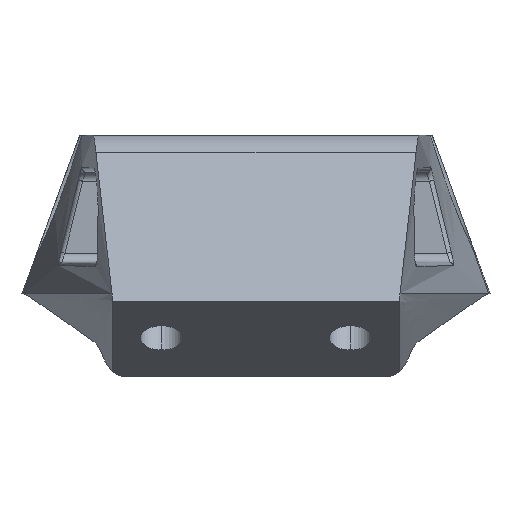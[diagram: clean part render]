
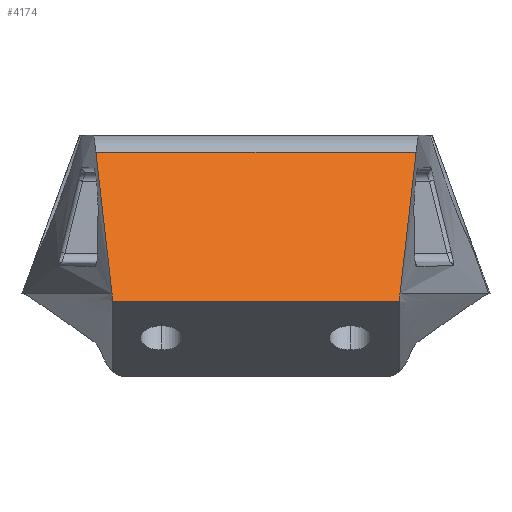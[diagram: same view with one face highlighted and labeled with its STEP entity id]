
A CAD part, front view. The second image highlights one B-rep face of the part: STEP entity #4174.
In plain terms, the highlighted planar face has unit normal (0, -0.845, 0.536).
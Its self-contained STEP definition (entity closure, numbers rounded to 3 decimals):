
#22 = CARTESIAN_POINT ( 'NONE',  ( 16., -94.058, 0. ) ) ;
#117 = ORIENTED_EDGE ( 'NONE', *, *, #4280, .F. ) ;
#268 = ORIENTED_EDGE ( 'NONE', *, *, #5588, .T. ) ;
#412 = LINE ( 'NONE', #7339, #3879 ) ;
#429 = CARTESIAN_POINT ( 'NONE',  ( -16., -94.246, -0.296 ) ) ;
#591 = CARTESIAN_POINT ( 'NONE',  ( -17.789, -84.075, 15.742 ) ) ;
#743 = VERTEX_POINT ( 'NONE', #1839 ) ;
#748 = CARTESIAN_POINT ( 'NONE',  ( 16., -94.434, -0.592 ) ) ;
#789 = CARTESIAN_POINT ( 'NONE',  ( -16., -94.058, 0. ) ) ;
#1155 = LINE ( 'NONE', #8320, #6835 ) ;
#1227 = CARTESIAN_POINT ( 'NONE',  ( -16.596, -90.73, 5.247 ) ) ;
#1330 = CARTESIAN_POINT ( 'NONE',  ( 17.193, -87.403, 10.495 ) ) ;
#1387 = CARTESIAN_POINT ( 'NONE',  ( 16., -94.058, 0. ) ) ;
#1492 = DIRECTION ( 'NONE',  ( 0., -0.844, 0.536 ) ) ;
#1517 = VERTEX_POINT ( 'NONE', #591 ) ;
#1532 = PLANE ( 'NONE',  #2546 ) ;
#1835 = B_SPLINE_CURVE_WITH_KNOTS ( 'NONE', 3,
 ( #6451, #3938, #1330, #4063 ),
 .UNSPECIFIED., .F., .F.,
 ( 4, 4 ),
 ( 0., 0.894 ),
 .UNSPECIFIED. ) ;
#1839 = CARTESIAN_POINT ( 'NONE',  ( 16., -94.621, -0.888 ) ) ;
#1889 = CARTESIAN_POINT ( 'NONE',  ( 16., -94.621, -0.888 ) ) ;
#2097 = EDGE_LOOP ( 'NONE', ( #2863, #2395, #3702, #268, #7749, #117 ) ) ;
#2188 = EDGE_CURVE ( 'NONE', #4210, #743, #1155, .T. ) ;
#2395 = ORIENTED_EDGE ( 'NONE', *, *, #3920, .T. ) ;
#2546 = AXIS2_PLACEMENT_3D ( 'NONE', #6191, #1492, #4109 ) ;
#2863 = ORIENTED_EDGE ( 'NONE', *, *, #3516, .T. ) ;
#2994 = CARTESIAN_POINT ( 'NONE',  ( -16., -94.434, -0.592 ) ) ;
#3069 = CARTESIAN_POINT ( 'NONE',  ( -17.193, -87.403, 10.495 ) ) ;
#3314 = B_SPLINE_CURVE_WITH_KNOTS ( 'NONE', 3,
 ( #6198, #429, #2994, #5583 ),
 .UNSPECIFIED., .F., .F.,
 ( 4, 4 ),
 ( 0., 1. ),
 .UNSPECIFIED. ) ;
#3516 = EDGE_CURVE ( 'NONE', #6337, #8112, #1835, .T. ) ;
#3613 = DIRECTION ( 'NONE',  ( -1., 0., 0. ) ) ;
#3702 = ORIENTED_EDGE ( 'NONE', *, *, #4621, .F. ) ;
#3879 = VECTOR ( 'NONE', #3613, 1000. ) ;
#3920 = EDGE_CURVE ( 'NONE', #8112, #1517, #412, .T. ) ;
#3938 = CARTESIAN_POINT ( 'NONE',  ( 16.596, -90.73, 5.247 ) ) ;
#4063 = CARTESIAN_POINT ( 'NONE',  ( 17.789, -84.075, 15.742 ) ) ;
#4109 = DIRECTION ( 'NONE',  ( 1., 0., 0. ) ) ;
#4174 = ADVANCED_FACE ( 'NONE', ( #6813 ), #1532, .T. ) ;
#4210 = VERTEX_POINT ( 'NONE', #8260 ) ;
#4280 = EDGE_CURVE ( 'NONE', #6337, #743, #5996, .T. ) ;
#4621 = EDGE_CURVE ( 'NONE', #6740, #1517, #5019, .T. ) ;
#4904 = CARTESIAN_POINT ( 'NONE',  ( -16., -94.058, 0. ) ) ;
#5019 = B_SPLINE_CURVE_WITH_KNOTS ( 'NONE', 3,
 ( #789, #1227, #3069, #5660 ),
 .UNSPECIFIED., .F., .F.,
 ( 4, 4 ),
 ( 0., 0.894 ),
 .UNSPECIFIED. ) ;
#5205 = CARTESIAN_POINT ( 'NONE',  ( 16., -94.246, -0.296 ) ) ;
#5583 = CARTESIAN_POINT ( 'NONE',  ( -16., -94.621, -0.888 ) ) ;
#5588 = EDGE_CURVE ( 'NONE', #6740, #4210, #3314, .T. ) ;
#5660 = CARTESIAN_POINT ( 'NONE',  ( -17.789, -84.075, 15.742 ) ) ;
#5996 = B_SPLINE_CURVE_WITH_KNOTS ( 'NONE', 3,
 ( #1387, #5205, #748, #1889 ),
 .UNSPECIFIED., .F., .F.,
 ( 4, 4 ),
 ( 0., 1. ),
 .UNSPECIFIED. ) ;
#6191 = CARTESIAN_POINT ( 'NONE',  ( -16., -94.058, 0. ) ) ;
#6198 = CARTESIAN_POINT ( 'NONE',  ( -16., -94.058, 0. ) ) ;
#6337 = VERTEX_POINT ( 'NONE', #22 ) ;
#6414 = DIRECTION ( 'NONE',  ( 1., 0., 0. ) ) ;
#6451 = CARTESIAN_POINT ( 'NONE',  ( 16., -94.058, 0. ) ) ;
#6740 = VERTEX_POINT ( 'NONE', #4904 ) ;
#6813 = FACE_OUTER_BOUND ( 'NONE', #2097, .T. ) ;
#6835 = VECTOR ( 'NONE', #6414, 1000. ) ;
#7339 = CARTESIAN_POINT ( 'NONE',  ( -16., -84.075, 15.742 ) ) ;
#7749 = ORIENTED_EDGE ( 'NONE', *, *, #2188, .T. ) ;
#8112 = VERTEX_POINT ( 'NONE', #8236 ) ;
#8236 = CARTESIAN_POINT ( 'NONE',  ( 17.789, -84.075, 15.742 ) ) ;
#8260 = CARTESIAN_POINT ( 'NONE',  ( -16., -94.621, -0.888 ) ) ;
#8320 = CARTESIAN_POINT ( 'NONE',  ( -16., -94.621, -0.888 ) ) ;
